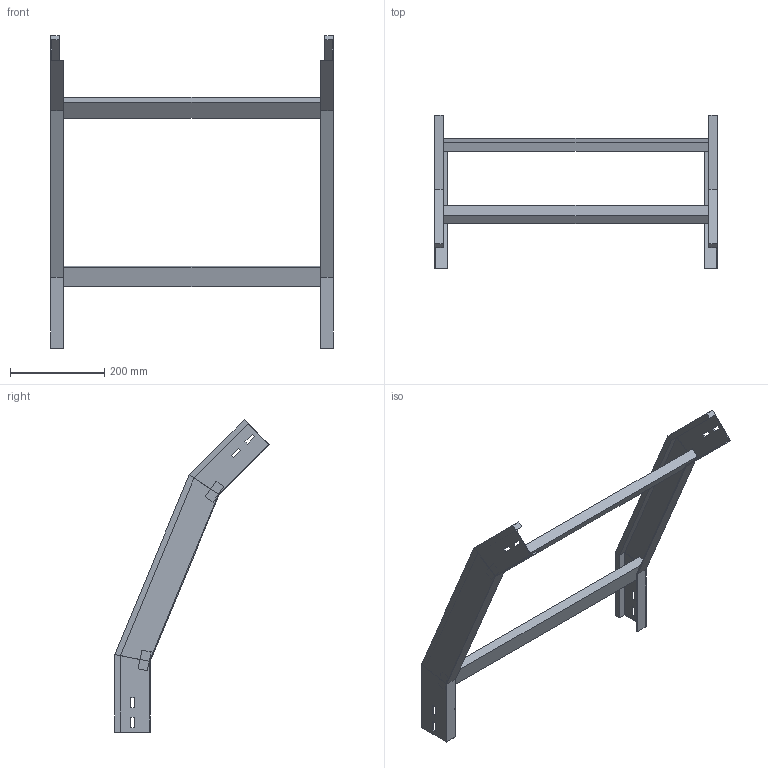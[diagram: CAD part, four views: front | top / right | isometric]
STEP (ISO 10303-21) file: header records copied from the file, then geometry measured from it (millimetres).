
FILE_DESCRIPTION (( 'STEP AP214' ), '1' );
FILE_NAME ('34B5C600.step', '2025-02-21T14:54:31', ( '' ), ( '' ), 'SwSTEP 2.0', 'SolidWorks 2023', '' );
FILE_SCHEMA (( 'AUTOMOTIVE_DESIGN' ));
Length unit declared in the file: millimetre
Products named in the file (3): 34B5C600; TRAVERSINO_600; LONGH.DISCESA_45°_H75_R500
Assembly tree (5 placements, depth 2):
  34B5C600
    LONGH.DISCESA_45°_H75_R500  x2
    TRAVERSINO_600  x3
Bounding box: 600 x 327.63 x 662.94 mm (x, y, z)
Volume: 2011400.1 mm3; surface area: 556398.9 mm2
Topology: 5 solids, 5 shells, 102 faces, 244 edges, 152 vertices
Faces by surface type: plane 102
Entity records: 1480 total; most frequent: CARTESIAN_POINT 244, ORIENTED_EDGE 232, DIRECTION 228, VECTOR 116, LINE 116, EDGE_CURVE 116, VERTEX_POINT 72, AXIS2_PLACEMENT_3D 56
